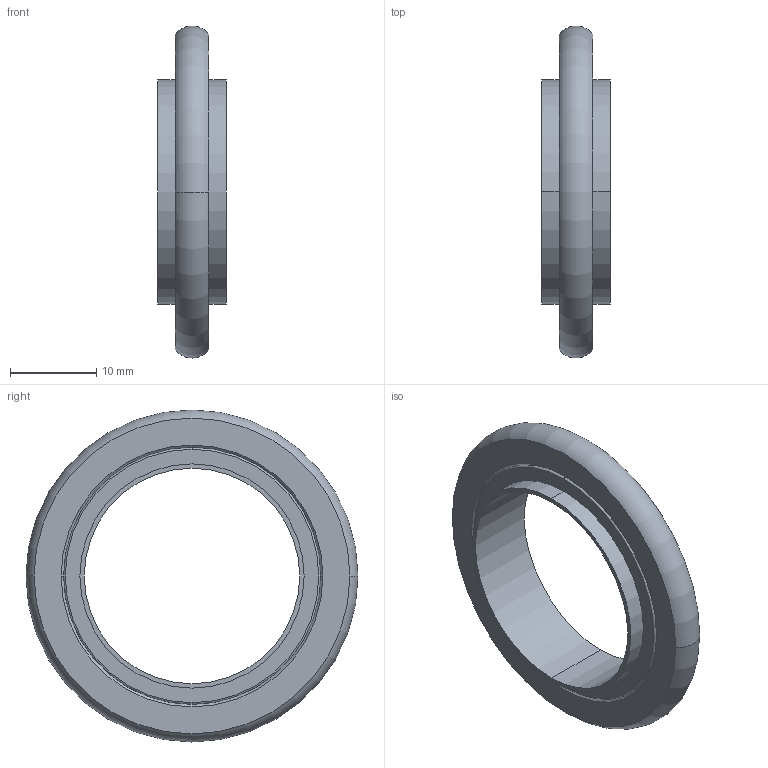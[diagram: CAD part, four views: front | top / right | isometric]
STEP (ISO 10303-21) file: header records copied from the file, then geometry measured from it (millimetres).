
FILE_DESCRIPTION((''),'2;1');
FILE_NAME('88347_SW0001','2015-09-29T',('L0100062'),('Copyright by Leybold GmbH'),'PRO/ENGINEER BY PARAMETRIC TECHNOLOGY CORPORATION, 2015030','PRO/ENGINEER BY PARAMETRIC TECHNOLOGY CORPORATION, 2015030','');
FILE_SCHEMA(('AUTOMOTIVE_DESIGN { 1 0 10303 214 1 1 1 1 }'));
Length unit declared in the file: millimetre
Products named in the file (1): 88347_SW0001
Bounding box: 8 x 38.5 x 38.5 mm (x, y, z)
Volume: 2649.1 mm3; surface area: 2703 mm2
Topology: 1 solids, 1 shells, 22 faces, 48 edges, 32 vertices
Faces by surface type: plane 6, cylinder 6, revolution 6, torus 4
Entity records: 994 total; most frequent: CARTESIAN_POINT 178, DIRECTION 116, ORIENTED_EDGE 96, AXIS2_PLACEMENT_3D 52, EDGE_CURVE 48, COLOUR_RGB 47, CIRCLE 36, VERTEX_POINT 32
